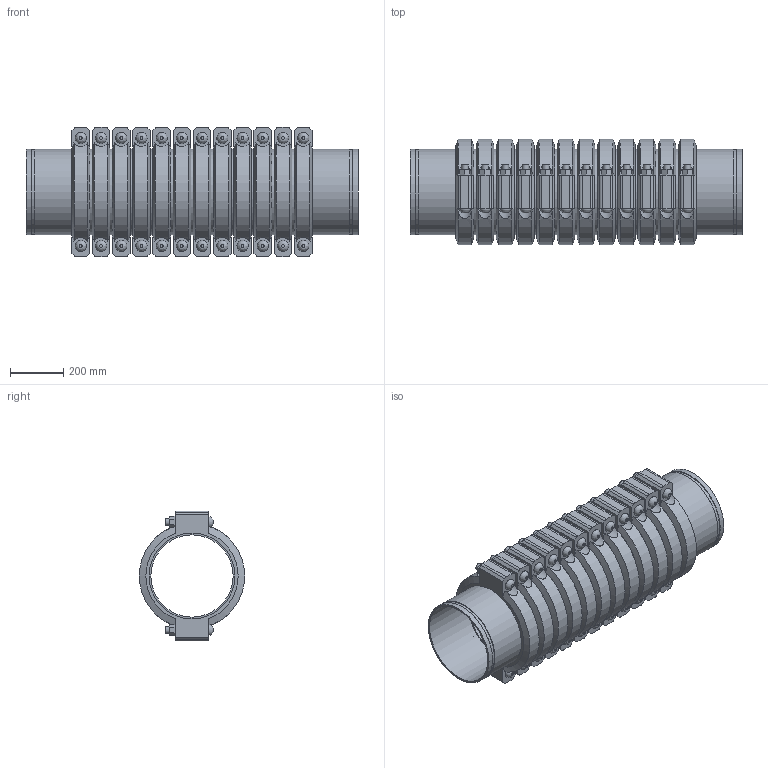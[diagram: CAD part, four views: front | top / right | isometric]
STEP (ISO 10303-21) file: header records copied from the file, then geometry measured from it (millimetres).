
FILE_DESCRIPTION(/* description */ ('VIC SS EXPANSION JOINT 12 COUPLINGS EXPANDED STYLE 155P (OGS) (POTABLE WATER) ','CAx-IF Rec.Pracs.---Representation and Presentation of Product Manufacturing Information (PMI)---4.0---2014-10-13'),/* implementation_level */ '2;1');
FILE_NAME(/* name */ 'C:\Users\kkamble\AppData\Roaming\Autodesk\ApplicationPlugins\Victaulic.Temp\A679\Victaulic_SS_Expansion Joint_Expanded_12 Couplings_Style 155P (OGS)-Potable Water_12 Coup_Expd_12 (300).stp',/* time_stamp */ '2021-07-16T16:47:59+05:00',/* author */ ('kkamble'),/* organization */ ('Victaulic'),/* preprocessor_version */ 'ST-DEVELOPER v17.2',/* originating_system */ 'Autodesk Inventor 2019',/* authorisation */ '');
FILE_SCHEMA (('AP242_MANAGED_MODEL_BASED_3D_ENGINEERING_MIM_LF { 1 0 10303 442 1 1 4 }'));
Length unit declared in the file: inch
Products named in the file (4): 155P-12.0; Nipple-12.0; Nipple-12.0_1; 077-12.0
Assembly tree (25 placements, depth 2):
  155P-12.0
    Nipple-12.0  x2
    Nipple-12.0_1  x11
    077-12.0  x12
Bounding box: 1250.95 x 397 x 488.95 mm (x, y, z)
Volume: 48569225 mm3; surface area: 6574753.2 mm2
Topology: 25 solids, 49 shells, 888 faces, 2130 edges, 1488 vertices
Faces by surface type: plane 510, cylinder 306, cone 48, bspline 24
Full cylindrical faces by diameter (mm): 25.4 x48, 27.432 x24, 309.677 x13, 314.96 x12, 318.287 x26, 323.85 x63
Entity records: 3160 total; most frequent: CARTESIAN_POINT 673, DIRECTION 505, ORIENTED_EDGE 410, AXIS2_PLACEMENT_3D 208, EDGE_CURVE 205, VERTEX_POINT 146, EDGE_LOOP 111, CIRCLE 96
